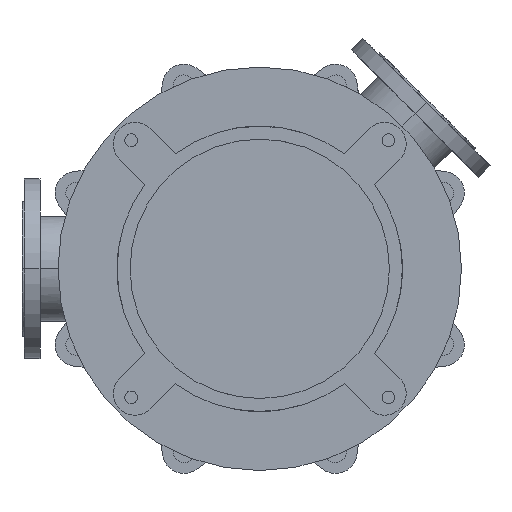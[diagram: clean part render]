
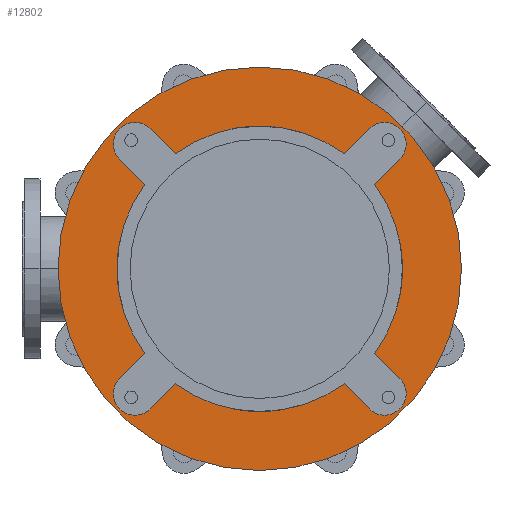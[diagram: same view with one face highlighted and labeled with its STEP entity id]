
A CAD part, front view. The second image highlights one B-rep face of the part: STEP entity #12802.
In plain terms, the highlighted planar face has unit normal (0, -1, 0).
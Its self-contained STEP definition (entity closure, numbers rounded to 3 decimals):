
#2510=CARTESIAN_POINT('',(0.,-25.,0.));
#2511=DIRECTION('',(0.,1.,0.));
#2512=DIRECTION('',(0.592,0.,-0.806));
#2513=AXIS2_PLACEMENT_3D('',#2510,#2511,#2512);
#2528=CARTESIAN_POINT('',(0.,-25.,0.));
#2529=DIRECTION('',(0.,1.,0.));
#2530=DIRECTION('',(0.806,0.,0.592));
#2531=AXIS2_PLACEMENT_3D('',#2528,#2529,#2530);
#2555=CARTESIAN_POINT('',(0.,-25.,0.));
#2556=DIRECTION('',(0.,1.,0.));
#2557=DIRECTION('',(-0.806,0.,-0.592));
#2558=AXIS2_PLACEMENT_3D('',#2555,#2556,#2557);
#2564=CARTESIAN_POINT('',(0.,-25.,0.));
#2565=DIRECTION('',(0.,1.,0.));
#2566=DIRECTION('',(-0.592,0.,0.806));
#2567=AXIS2_PLACEMENT_3D('',#2564,#2565,#2566);
#2742=CARTESIAN_POINT('',(0.,-25.,0.));
#2743=DIRECTION('',(0.,-1.,0.));
#2744=DIRECTION('',(-1.,0.,0.));
#2745=AXIS2_PLACEMENT_3D('',#2742,#2743,#2744);
#2747=CARTESIAN_POINT('',(0.,-25.,0.));
#2748=DIRECTION('',(0.,1.,0.));
#2749=DIRECTION('',(-1.,0.,0.));
#2750=AXIS2_PLACEMENT_3D('',#2747,#2748,#2749);
#2752=CARTESIAN_POINT('',(-173.241,-25.,173.241));
#2753=DIRECTION('',(0.,-1.,0.));
#2754=DIRECTION('',(0.707,0.,0.707));
#2755=AXIS2_PLACEMENT_3D('',#2752,#2753,#2754);
#2757=DIRECTION('',(0.707,0.,-0.707));
#2758=VECTOR('',#2757,49.286);
#2759=CARTESIAN_POINT('',(-194.454,-25.,152.028));
#2760=LINE('',#2759,#2758);
#2761=DIRECTION('',(-0.707,0.,-0.707));
#2762=VECTOR('',#2761,49.286);
#2763=CARTESIAN_POINT('',(-159.604,-25.,-117.178));
#2764=LINE('',#2763,#2762);
#2765=CARTESIAN_POINT('',(-173.241,-25.,-173.241));
#2766=DIRECTION('',(0.,-1.,0.));
#2767=DIRECTION('',(-0.707,0.,0.707));
#2768=AXIS2_PLACEMENT_3D('',#2765,#2766,#2767);
#2770=DIRECTION('',(0.707,0.,0.707));
#2771=VECTOR('',#2770,49.286);
#2772=CARTESIAN_POINT('',(-152.028,-25.,-194.454));
#2773=LINE('',#2772,#2771);
#2774=DIRECTION('',(0.707,0.,-0.707));
#2775=VECTOR('',#2774,49.286);
#2776=CARTESIAN_POINT('',(117.178,-25.,-159.604));
#2777=LINE('',#2776,#2775);
#2778=CARTESIAN_POINT('',(173.241,-25.,-173.241));
#2779=DIRECTION('',(0.,-1.,0.));
#2780=DIRECTION('',(-0.707,0.,-0.707));
#2781=AXIS2_PLACEMENT_3D('',#2778,#2779,#2780);
#2783=DIRECTION('',(-0.707,0.,0.707));
#2784=VECTOR('',#2783,49.286);
#2785=CARTESIAN_POINT('',(194.454,-25.,-152.028));
#2786=LINE('',#2785,#2784);
#2787=DIRECTION('',(0.707,0.,0.707));
#2788=VECTOR('',#2787,49.286);
#2789=CARTESIAN_POINT('',(159.604,-25.,117.178));
#2790=LINE('',#2789,#2788);
#2791=CARTESIAN_POINT('',(173.241,-25.,173.241));
#2792=DIRECTION('',(0.,-1.,0.));
#2793=DIRECTION('',(0.707,0.,-0.707));
#2794=AXIS2_PLACEMENT_3D('',#2791,#2792,#2793);
#2796=DIRECTION('',(-0.707,0.,-0.707));
#2797=VECTOR('',#2796,49.286);
#2798=CARTESIAN_POINT('',(152.028,-25.,194.454));
#2799=LINE('',#2798,#2797);
#2800=DIRECTION('',(-0.707,0.,0.707));
#2801=VECTOR('',#2800,49.286);
#2802=CARTESIAN_POINT('',(-117.178,-25.,159.604));
#2803=LINE('',#2802,#2801);
#8315=CARTESIAN_POINT('',(-280.,-25.,0.));
#8316=CARTESIAN_POINT('',(280.,-25.,0.));
#8317=VERTEX_POINT('',#8315);
#8318=VERTEX_POINT('',#8316);
#8339=CARTESIAN_POINT('',(-194.454,-25.,-152.028));
#8340=CARTESIAN_POINT('',(-152.028,-25.,-194.454));
#8341=VERTEX_POINT('',#8339);
#8342=VERTEX_POINT('',#8340);
#8343=CARTESIAN_POINT('',(-117.178,-25.,-159.604));
#8344=VERTEX_POINT('',#8343);
#8345=CARTESIAN_POINT('',(-159.604,-25.,-117.178));
#8346=VERTEX_POINT('',#8345);
#8355=CARTESIAN_POINT('',(152.028,-25.,-194.454));
#8356=CARTESIAN_POINT('',(194.454,-25.,-152.028));
#8357=VERTEX_POINT('',#8355);
#8358=VERTEX_POINT('',#8356);
#8359=CARTESIAN_POINT('',(159.604,-25.,-117.178));
#8360=VERTEX_POINT('',#8359);
#8361=CARTESIAN_POINT('',(117.178,-25.,-159.604));
#8362=VERTEX_POINT('',#8361);
#8371=CARTESIAN_POINT('',(194.454,-25.,152.028));
#8372=CARTESIAN_POINT('',(152.028,-25.,194.454));
#8373=VERTEX_POINT('',#8371);
#8374=VERTEX_POINT('',#8372);
#8375=CARTESIAN_POINT('',(117.178,-25.,159.604));
#8376=VERTEX_POINT('',#8375);
#8377=CARTESIAN_POINT('',(159.604,-25.,117.178));
#8378=VERTEX_POINT('',#8377);
#8387=CARTESIAN_POINT('',(-152.028,-25.,194.454));
#8388=CARTESIAN_POINT('',(-194.454,-25.,152.028));
#8389=VERTEX_POINT('',#8387);
#8390=VERTEX_POINT('',#8388);
#8391=CARTESIAN_POINT('',(-159.604,-25.,117.178));
#8392=VERTEX_POINT('',#8391);
#8393=CARTESIAN_POINT('',(-117.178,-25.,159.604));
#8394=VERTEX_POINT('',#8393);
#12762=CARTESIAN_POINT('',(0.,-25.,0.));
#12763=DIRECTION('',(0.,-1.,0.));
#12764=DIRECTION('',(-1.,0.,0.));
#12765=AXIS2_PLACEMENT_3D('',#12762,#12763,#12764);
#12766=PLANE('',#12765);
#12768=ORIENTED_EDGE('',*,*,#12767,.F.);
#12770=ORIENTED_EDGE('',*,*,#12769,.T.);
#12771=EDGE_LOOP('',(#12768,#12770));
#12772=FACE_OUTER_BOUND('',#12771,.F.);
#12774=ORIENTED_EDGE('',*,*,#12773,.T.);
#12776=ORIENTED_EDGE('',*,*,#12775,.T.);
#12777=ORIENTED_EDGE('',*,*,#12715,.F.);
#12779=ORIENTED_EDGE('',*,*,#12778,.T.);
#12781=ORIENTED_EDGE('',*,*,#12780,.T.);
#12783=ORIENTED_EDGE('',*,*,#12782,.T.);
#12784=ORIENTED_EDGE('',*,*,#12668,.F.);
#12785=ORIENTED_EDGE('',*,*,#12752,.T.);
#12787=ORIENTED_EDGE('',*,*,#12786,.T.);
#12789=ORIENTED_EDGE('',*,*,#12788,.T.);
#12790=ORIENTED_EDGE('',*,*,#12689,.F.);
#12792=ORIENTED_EDGE('',*,*,#12791,.T.);
#12794=ORIENTED_EDGE('',*,*,#12793,.T.);
#12796=ORIENTED_EDGE('',*,*,#12795,.T.);
#12797=ORIENTED_EDGE('',*,*,#12733,.F.);
#12799=ORIENTED_EDGE('',*,*,#12798,.T.);
#12800=EDGE_LOOP('',(#12774,#12776,#12777,#12779,#12781,#12783,#12784,#12785,
#12787,#12789,#12790,#12792,#12794,#12796,#12797,#12799));
#12801=FACE_BOUND('',#12800,.F.);
#12802=ADVANCED_FACE('',(#12772,#12801),#12766,.T.);
#2514=CIRCLE('',#2513,198.);
#2532=CIRCLE('',#2531,198.);
#2559=CIRCLE('',#2558,198.);
#2568=CIRCLE('',#2567,198.);
#2746=CIRCLE('',#2745,280.);
#2751=CIRCLE('',#2750,280.);
#2756=CIRCLE('',#2755,30.);
#2769=CIRCLE('',#2768,30.);
#2782=CIRCLE('',#2781,30.);
#2795=CIRCLE('',#2794,30.);
#12668=EDGE_CURVE('',#8362,#8344,#2514,.T.);
#12689=EDGE_CURVE('',#8378,#8360,#2532,.T.);
#12715=EDGE_CURVE('',#8346,#8392,#2559,.T.);
#12733=EDGE_CURVE('',#8394,#8376,#2568,.T.);
#12752=EDGE_CURVE('',#8362,#8357,#2777,.T.);
#12767=EDGE_CURVE('',#8317,#8318,#2746,.T.);
#12769=EDGE_CURVE('',#8317,#8318,#2751,.T.);
#12773=EDGE_CURVE('',#8389,#8390,#2756,.T.);
#12775=EDGE_CURVE('',#8390,#8392,#2760,.T.);
#12778=EDGE_CURVE('',#8346,#8341,#2764,.T.);
#12780=EDGE_CURVE('',#8341,#8342,#2769,.T.);
#12782=EDGE_CURVE('',#8342,#8344,#2773,.T.);
#12786=EDGE_CURVE('',#8357,#8358,#2782,.T.);
#12788=EDGE_CURVE('',#8358,#8360,#2786,.T.);
#12791=EDGE_CURVE('',#8378,#8373,#2790,.T.);
#12793=EDGE_CURVE('',#8373,#8374,#2795,.T.);
#12795=EDGE_CURVE('',#8374,#8376,#2799,.T.);
#12798=EDGE_CURVE('',#8394,#8389,#2803,.T.);
